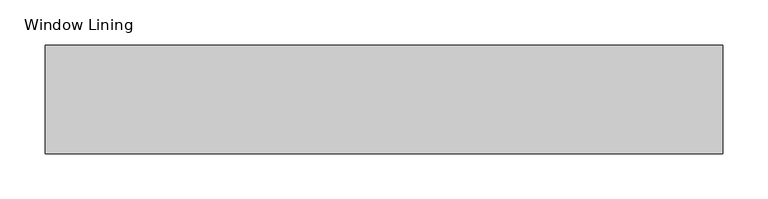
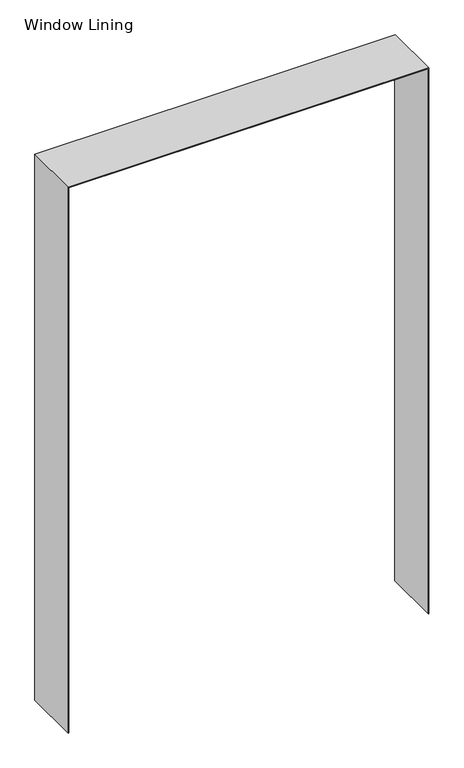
"""IFC4 building model written with IfcOpenShell, lengths in millimetres: proxy geometry, Dafa_ExFoil_Lining_Foil 2 x double adhesive : Window Lining."""

from ifc_helpers import new_model, si_unit, frame, origin, place, context, project, spatial, polyline, outline, extrude, source, transform, mapped, element, save


def window_lining_c4cb1808(model_context):
    return source(origin(), model_context, "Body", "SweptSolid", [
        extrude(outline(polyline([(1200.0, 375.0), (1200.0, -375.0), (0.0, -375.0), (0.0, -374.0), (1199.0, -374.0), (1199.0, 374.0), (0.0, 374.0), (0.0, 375.0), (1200.0, 375.0)])), frame((0.0, 0.0, 0.0), z_axis=(0.0, 1.0, 0.0), x_axis=(0.0, 0.0, 1.0)), (0.0, 0.0, 1.0), 120.0),
    ])


if __name__ == "__main__":
    model = new_model("IFC4")
    model_context = context("Model", 3, world=origin())
    ifc_project = project(units=[si_unit("LENGTHUNIT", "METRE", prefix="MILLI")], contexts=[model_context])
    site = spatial("IfcSite", under=ifc_project)
    building = spatial("IfcBuilding", under=site)
    placement = place(None, origin())
    window_lining_shape = window_lining_c4cb1808(model_context)
    element("IfcBuildingElementProxy", 1, Name="Dafa_ExFoil_Lining_Foil 2 x double adhesive : Window Lining", ObjectType="Dafa_ExFoil_Lining_Foil 2 x double adhesive : Window Lining", at=placement, inside=building, context=model_context, shape_type="MappedRepresentation", body=[
        mapped(window_lining_shape, transform((0.0, 0.0, 0.0), x_axis=(1.0, 0.0, 0.0), y_axis=(0.0, 1.0, 0.0), z_axis=(0.0, 0.0, 1.0))),
    ])
    save(model, "model.ifc")
